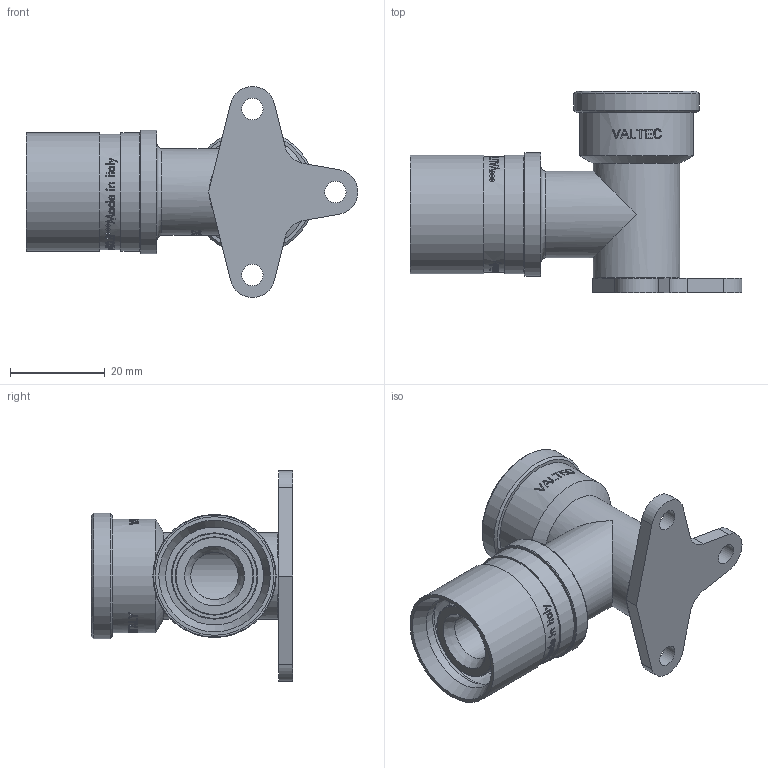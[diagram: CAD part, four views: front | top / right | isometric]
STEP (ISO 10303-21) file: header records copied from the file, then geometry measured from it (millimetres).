
FILE_DESCRIPTION(/* description */ (''),/* implementation_level */ '2;1');
FILE_NAME(/* name */ 'F:\Артём\00000\Работа удаленка\Аксеальные фитинги\VTm.454.BG.002004.stp',/* time_stamp */ '2021-01-27T11:33:18+03:00',/* author */ ('almis'),/* organization */ (''),/* preprocessor_version */ 'ST-DEVELOPER v18',/* originating_system */ 'Autodesk Inventor 2020',/* authorisation */ '');
FILE_SCHEMA (('AUTOMOTIVE_DESIGN { 1 0 10303 214 3 1 1 }'));
Products named in the file (1): VTm.403.BG.001616
Bounding box: 70.01 x 42.5 x 44.5 mm (x, y, z)
Volume: 17271.1 mm3; surface area: 15061.4 mm2
Topology: 1 solids, 1 shells, 1026 faces, 2799 edges, 1882 vertices
Faces by surface type: bspline 489, plane 361, cylinder 139, torus 24, cone 13
Full cylindrical faces by diameter (mm): 4.5 x3, 10 x1, 14 x1, 15.7 x5, 16.5 x4, 18.2 x1, 18.3 x2, 18.6 x6, 20.65 x2, 22.2 x6, 24 x1, 24.3 x1, 25 x2, 26 x1, 26.5 x1
Entity records: 43519 total; most frequent: CARTESIAN_POINT 20285, ORIENTED_EDGE 5598, DIRECTION 3452, EDGE_CURVE 2799, VERTEX_POINT 1882, LINE 1198, VECTOR 1198, EDGE_LOOP 1141
